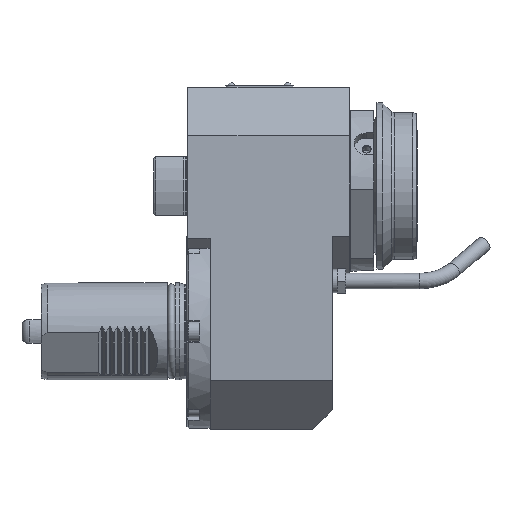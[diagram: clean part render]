
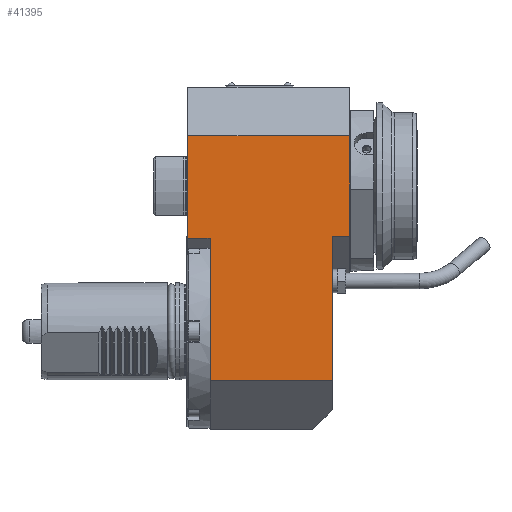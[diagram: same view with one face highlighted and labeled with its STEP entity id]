
A CAD part, front view. The second image highlights one B-rep face of the part: STEP entity #41395.
In plain terms, the highlighted planar face has unit normal (0, -1, 0).
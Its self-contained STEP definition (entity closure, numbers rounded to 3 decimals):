
#15897=ORIENTED_EDGE('',*,*,#20610,.T.);
#15898=ORIENTED_EDGE('',*,*,#20611,.T.);
#15899=ORIENTED_EDGE('',*,*,#20612,.F.);
#15900=ORIENTED_EDGE('',*,*,#20613,.F.);
#15901=ORIENTED_EDGE('',*,*,#20608,.F.);
#15902=ORIENTED_EDGE('',*,*,#20599,.T.);
#15903=ORIENTED_EDGE('',*,*,#20614,.T.);
#15904=ORIENTED_EDGE('',*,*,#20615,.T.);
#15905=ORIENTED_EDGE('',*,*,#20616,.F.);
#18451=VECTOR('',#23770,1.);
#18459=VECTOR('',#23786,1.);
#18461=VECTOR('',#23790,1.);
#18462=VECTOR('',#23791,1.);
#18463=VECTOR('',#23792,1.);
#18464=VECTOR('',#23793,1.);
#18465=VECTOR('',#23794,1.);
#18466=VECTOR('',#23795,1.);
#18467=VECTOR('',#23796,1.);
#19062=LINE('',#26879,#18451);
#19070=LINE('',#26897,#18459);
#19072=LINE('',#26902,#18461);
#19073=LINE('',#26904,#18462);
#19074=LINE('',#26906,#18463);
#19075=LINE('',#26907,#18464);
#19076=LINE('',#26909,#18465);
#19077=LINE('',#26911,#18466);
#19078=LINE('',#26912,#18467);
#19675=VERTEX_POINT('',#26876);
#19676=VERTEX_POINT('',#26878);
#19682=VERTEX_POINT('',#26896);
#19683=VERTEX_POINT('',#26900);
#19684=VERTEX_POINT('',#26901);
#19685=VERTEX_POINT('',#26903);
#19686=VERTEX_POINT('',#26905);
#19687=VERTEX_POINT('',#26908);
#19688=VERTEX_POINT('',#26910);
#20599=EDGE_CURVE('',#19676,#19675,#19062,.T.);
#20608=EDGE_CURVE('',#19676,#19682,#19070,.T.);
#20610=EDGE_CURVE('',#19683,#19684,#19072,.T.);
#20611=EDGE_CURVE('',#19684,#19685,#19073,.T.);
#20612=EDGE_CURVE('',#19686,#19685,#19074,.T.);
#20613=EDGE_CURVE('',#19682,#19686,#19075,.T.);
#20614=EDGE_CURVE('',#19675,#19687,#19076,.T.);
#20615=EDGE_CURVE('',#19687,#19688,#19077,.T.);
#20616=EDGE_CURVE('',#19683,#19688,#19078,.T.);
#21870=EDGE_LOOP('',(#15897,#15898,#15899,#15900,#15901,#15902,#15903,#15904,
#15905));
#22803=FACE_BOUND('',#21870,.T.);
#23770=DIRECTION('',(0.,0.,52.));
#23786=DIRECTION('',(-9.,0.,0.));
#23788=DIRECTION('',(0.,-1.,0.));
#23789=DIRECTION('',(-1.,0.,0.));
#23790=DIRECTION('',(0.,0.,-48.));
#23791=DIRECTION('',(0.,0.,-25.5));
#23792=DIRECTION('',(-63.,0.,0.));
#23793=DIRECTION('',(0.,0.,-74.5));
#23794=DIRECTION('',(-83.5,0.,0.));
#23795=DIRECTION('',(0.,0.,-53.));
#23796=DIRECTION('',(-11.5,0.,0.));
#26876=CARTESIAN_POINT('',(84.,-50.,101.));
#26878=CARTESIAN_POINT('',(84.,-50.,49.));
#26879=CARTESIAN_POINT('',(84.,-50.,49.));
#26896=CARTESIAN_POINT('',(75.,-50.,49.));
#26897=CARTESIAN_POINT('',(84.,-50.,49.));
#26899=CARTESIAN_POINT('',(84.,-50.,49.));
#26900=CARTESIAN_POINT('',(12.,-50.,48.));
#26901=CARTESIAN_POINT('',(12.,-50.,0.));
#26902=CARTESIAN_POINT('',(12.,-50.,48.));
#26903=CARTESIAN_POINT('',(12.,-50.,-25.5));
#26904=CARTESIAN_POINT('',(12.,-50.,0.));
#26905=CARTESIAN_POINT('',(75.,-50.,-25.5));
#26906=CARTESIAN_POINT('',(75.,-50.,-25.5));
#26907=CARTESIAN_POINT('',(75.,-50.,49.));
#26908=CARTESIAN_POINT('',(0.5,-50.,101.));
#26909=CARTESIAN_POINT('',(84.,-50.,101.));
#26910=CARTESIAN_POINT('',(0.5,-50.,48.));
#26911=CARTESIAN_POINT('',(0.5,-50.,101.));
#26912=CARTESIAN_POINT('',(12.,-50.,48.));
#39806=AXIS2_PLACEMENT_3D('',#26899,#23788,#23789);
#41044=PLANE('',#39806);
#41395=ADVANCED_FACE('',(#22803),#41044,.T.);
